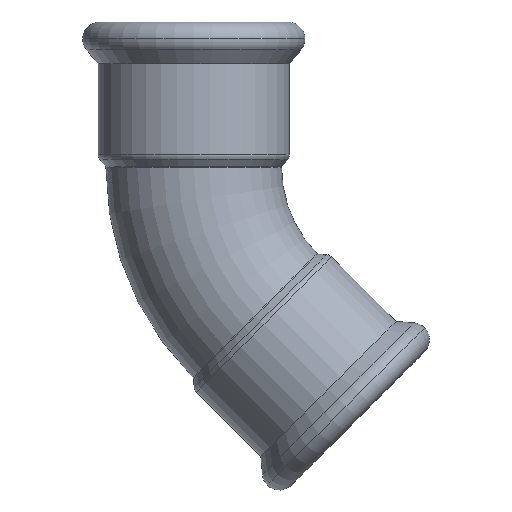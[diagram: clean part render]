
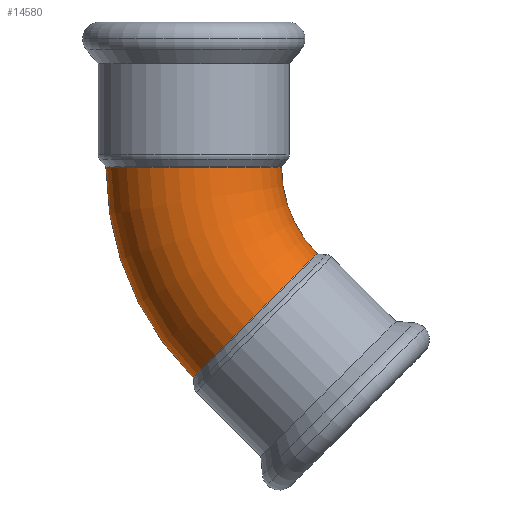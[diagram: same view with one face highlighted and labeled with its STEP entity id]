
A CAD part, top view. The second image highlights one B-rep face of the part: STEP entity #14580.
In plain terms, the highlighted toroidal (fillet/blend) face has major radius 42 mm and minor radius 17.594 mm.
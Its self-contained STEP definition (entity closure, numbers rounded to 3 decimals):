
#13900=CARTESIAN_POINT('',(-270.917,193.419,0.));
#13910=VERTEX_POINT('',#13900);
#14060=CARTESIAN_POINT('',(-306.106,193.419,
0.));
#14070=VERTEX_POINT('',#14060);
#14150=CARTESIAN_POINT('',(-246.511,193.419,0.));
#14160=DIRECTION('',(0.,0.,1.));
#14170=DIRECTION('',(-1.,0.,0.));
#14180=AXIS2_PLACEMENT_3D('',#14150,#14160,#14170);
#14190=TOROIDAL_SURFACE('',#14180,42.,17.594);
#14200=CARTESIAN_POINT('',(-276.21,163.721,0.));
#14210=DIRECTION('',(0.707,-0.707,0.));
#14220=DIRECTION('',(0.707,0.707,0.));
#14230=AXIS2_PLACEMENT_3D('',#14200,#14210,#14220);
#14240=CIRCLE('',#14230,17.594);
#14250=CARTESIAN_POINT('',(-276.21,163.721,
17.594));
#14260=VERTEX_POINT('',#14250);
#14270=CARTESIAN_POINT('',(-288.651,151.28,
0.));
#14280=VERTEX_POINT('',#14270);
#14290=EDGE_CURVE('',#14260,#14280,#14240,.T.);
#14300=ORIENTED_EDGE('',*,*,#14290,.F.);
#14310=CARTESIAN_POINT('',(-246.511,193.419,
0.));
#14320=DIRECTION('',(0.,0.,1.));
#14330=DIRECTION('',(-1.,0.,0.));
#14340=AXIS2_PLACEMENT_3D('',#14310,#14320,#14330);
#14350=CIRCLE('',#14340,59.594);
#14360=EDGE_CURVE('',#14070,#14280,#14350,.T.);
#14370=ORIENTED_EDGE('',*,*,#14360,.T.);
#14380=CARTESIAN_POINT('',(-288.511,193.419,0.));
#14390=DIRECTION('',(0.,-1.,0.));
#14400=DIRECTION('',(1.,0.,0.));
#14410=AXIS2_PLACEMENT_3D('',#14380,#14390,#14400);
#14420=CIRCLE('',#14410,17.594);
#14430=EDGE_CURVE('',#13910,#14070,#14420,.T.);
#14440=ORIENTED_EDGE('',*,*,#14430,.T.);
#14450=CARTESIAN_POINT('',(-246.511,193.419,0.));
#14460=DIRECTION('',(0.,0.,1.));
#14470=DIRECTION('',(-1.,0.,0.));
#14480=AXIS2_PLACEMENT_3D('',#14450,#14460,#14470);
#14490=CIRCLE('',#14480,24.406);
#14500=CARTESIAN_POINT('',(-263.769,176.162,0.));
#14510=VERTEX_POINT('',#14500);
#14520=EDGE_CURVE('',#13910,#14510,#14490,.T.);
#14530=ORIENTED_EDGE('',*,*,#14520,.F.);
#14540=EDGE_CURVE('',#14510,#14260,#14240,.T.);
#14550=ORIENTED_EDGE('',*,*,#14540,.F.);
#14560=EDGE_LOOP('',(#14550,#14530,#14440,#14370,#14300));
#14570=FACE_OUTER_BOUND('',#14560,.T.);
#14580=ADVANCED_FACE('',(#14570),#14190,.T.);
